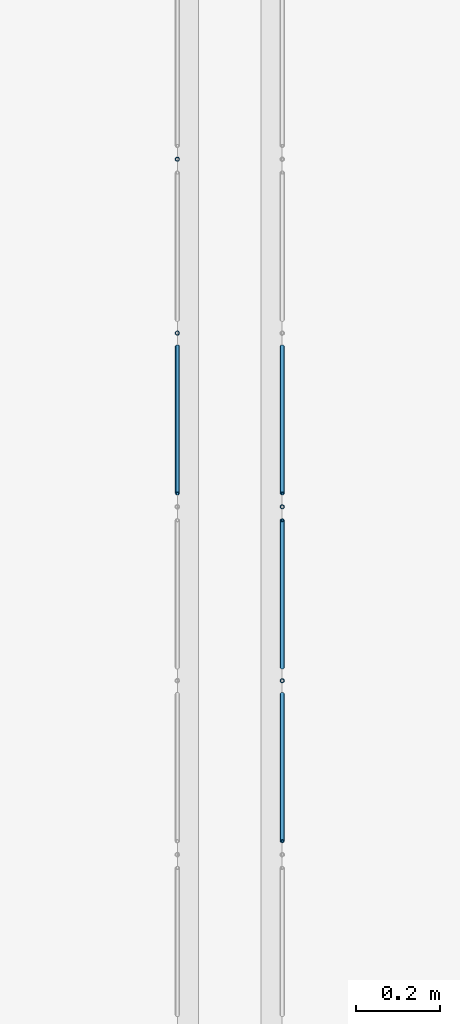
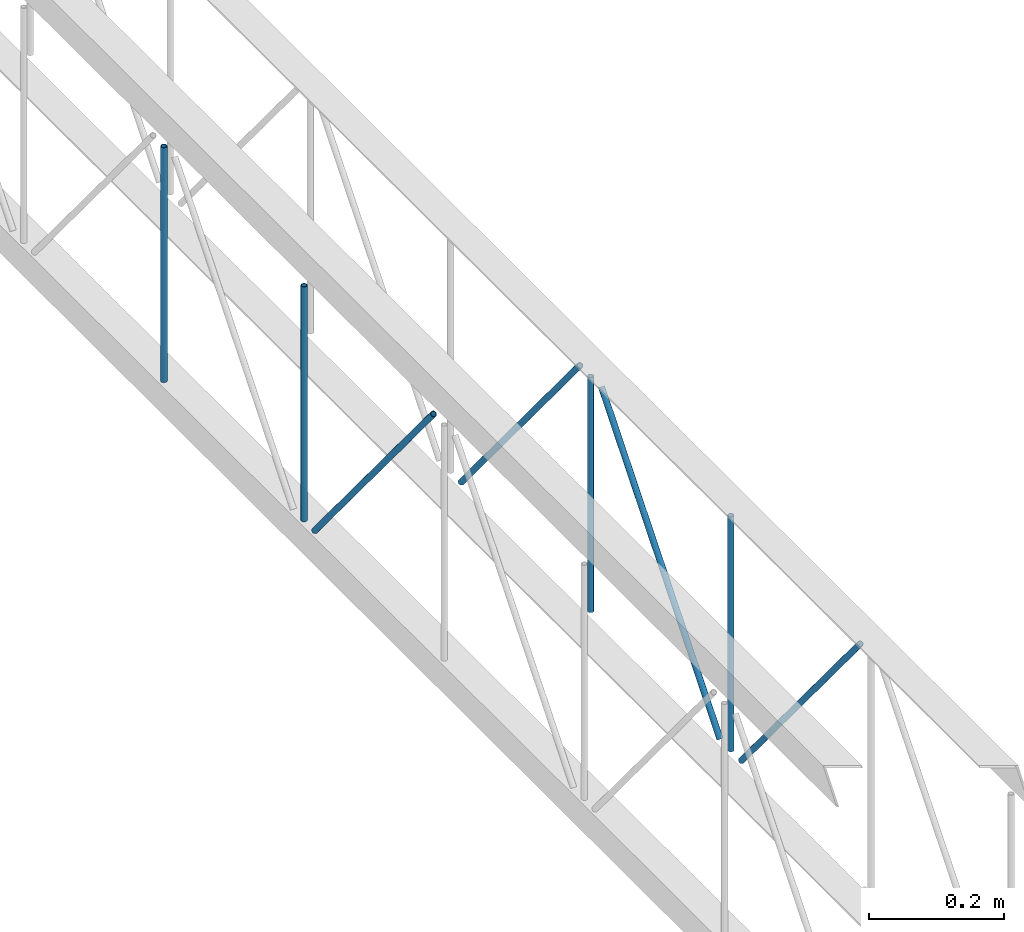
# One storey, part 23 of 153: 8 members, 2 elements without a shape of their own.
"""IFC4 building model written with IfcOpenShell, lengths in metres."""

from ifc_helpers import new_model, entity, si_unit, converted_unit, derived_unit, direction, frame, origin, place, context, subcontext, project, spatial, arc, indexed_curve, outline, extrude, source, transform, mapped, material, type_object, type_shapes, element, aggregate, save


model = new_model("IFC4")

# Units and contexts
model_context = context("Model", 3, precision=1e-05, world=origin(), true_north=direction((6.123031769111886e-17, 1.0)))
body_context = subcontext(model_context, "Body", "Model", "MODEL_VIEW")
ifc_project = project(units=[si_unit("LENGTHUNIT", "METRE"), si_unit("AREAUNIT", "SQUARE_METRE"), si_unit("VOLUMEUNIT", "CUBIC_METRE"), converted_unit("PLANEANGLEUNIT", "DEGREE", entity("IfcRatioMeasure", 0.017453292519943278), si_unit("PLANEANGLEUNIT", "RADIAN"), dimensions=[0, 0, 0, 0, 0, 0, 0]), si_unit("MASSUNIT", "GRAM", prefix="KILO"), derived_unit("MASSDENSITYUNIT", [(si_unit("MASSUNIT", "GRAM", prefix="KILO"), 1), (si_unit("LENGTHUNIT", "METRE"), -3)]), derived_unit("MOMENTOFINERTIAUNIT", [(si_unit("LENGTHUNIT", "METRE"), 4)]), si_unit("TIMEUNIT", "SECOND"), si_unit("FREQUENCYUNIT", "HERTZ"), si_unit("THERMODYNAMICTEMPERATUREUNIT", "DEGREE_CELSIUS"), derived_unit("THERMALTRANSMITTANCEUNIT", [(si_unit("MASSUNIT", "GRAM", prefix="KILO"), 1), (si_unit("THERMODYNAMICTEMPERATUREUNIT", "KELVIN"), -1), (si_unit("TIMEUNIT", "SECOND"), -3)]), derived_unit("VOLUMETRICFLOWRATEUNIT", [(si_unit("LENGTHUNIT", "METRE"), 3), (si_unit("TIMEUNIT", "SECOND"), -1)]), derived_unit("MASSFLOWRATEUNIT", [(si_unit("MASSUNIT", "GRAM", prefix="KILO"), 1), (si_unit("TIMEUNIT", "SECOND"), -1)]), derived_unit("ROTATIONALFREQUENCYUNIT", [(si_unit("TIMEUNIT", "SECOND"), -1)]), si_unit("ELECTRICCURRENTUNIT", "AMPERE"), si_unit("ELECTRICVOLTAGEUNIT", "VOLT"), si_unit("POWERUNIT", "WATT"), si_unit("FORCEUNIT", "NEWTON", prefix="KILO"), si_unit("ILLUMINANCEUNIT", "LUX"), si_unit("LUMINOUSFLUXUNIT", "LUMEN"), si_unit("LUMINOUSINTENSITYUNIT", "CANDELA"), derived_unit("USERDEFINED", [(si_unit("MASSUNIT", "GRAM", prefix="KILO"), -1), (si_unit("LENGTHUNIT", "METRE"), -2), (si_unit("TIMEUNIT", "SECOND"), 3), (si_unit("LUMINOUSFLUXUNIT", "LUMEN"), 1)]), derived_unit("SOUNDPOWERUNIT", [(si_unit("MASSUNIT", "GRAM", prefix="KILO"), 1), (si_unit("LENGTHUNIT", "METRE"), 2), (si_unit("TIMEUNIT", "SECOND"), -3)]), derived_unit("SOUNDPRESSUREUNIT", [(si_unit("MASSUNIT", "GRAM", prefix="KILO"), 1), (si_unit("LENGTHUNIT", "METRE"), -1), (si_unit("TIMEUNIT", "SECOND"), -2)]), derived_unit("LINEARVELOCITYUNIT", [(si_unit("LENGTHUNIT", "METRE"), 1), (si_unit("TIMEUNIT", "SECOND"), -1)]), si_unit("PRESSUREUNIT", "PASCAL"), derived_unit("USERDEFINED", [(si_unit("LENGTHUNIT", "METRE"), -2), (si_unit("MASSUNIT", "GRAM", prefix="KILO"), 1), (si_unit("TIMEUNIT", "SECOND"), -2)]), derived_unit("LINEARFORCEUNIT", [(si_unit("MASSUNIT", "GRAM", prefix="KILO"), 1), (si_unit("LENGTHUNIT", "METRE"), 1), (si_unit("TIMEUNIT", "SECOND"), -2), (si_unit("LENGTHUNIT", "METRE"), -1)]), derived_unit("PLANARFORCEUNIT", [(si_unit("MASSUNIT", "GRAM", prefix="KILO"), 1), (si_unit("LENGTHUNIT", "METRE"), 1), (si_unit("TIMEUNIT", "SECOND"), -2), (si_unit("LENGTHUNIT", "METRE"), -2)])], contexts=[model_context])

# Site, building, storey
site_placement = place(None, origin())
site = spatial("IfcSite", under=ifc_project, at=site_placement, Name="Superficie", CompositionType="ELEMENT")
building_placement = place(site_placement, origin())
building = spatial("IfcBuilding", under=site, at=building_placement, CompositionType="ELEMENT")
storey_placement = place(building_placement, frame((0.0, 0.0, 3.5999999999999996)))
storey = spatial("IfcBuildingStorey", under=building, at=storey_placement, Name="Nivel 1", CompositionType="ELEMENT", Elevation=3.5999999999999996)

# Assembly, members
assembly_1_placement = place(storey_placement, origin())
assembly_1 = element("IfcElementAssembly", 1, at=assembly_1_placement, inside=storey, Name="Viga de celosia 13:Viga de celosia 13", ObjectType="Viga de celosia 13:Viga de celosia 13", AssemblyPlace="NOTDEFINED", PredefinedType="TRUSS")
ifc_material = material(Name="Metal - Calibre delgado", Category="Metal")
member_type_1 = type_object("IfcMemberType", Name="HSS-Tubo estructural redondo:HSS 0.01", PredefinedType="BRACE", material=ifc_material)
shared_shape_1 = source(origin(), body_context, "Body", "SweptSolid", [
    extrude(outline(indexed_curve([(-0.005000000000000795, 7.502054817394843e-18), (-9.800269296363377e-18, -0.005000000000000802), (0.005000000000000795, -7.502054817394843e-18), (8.07772287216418e-18, 0.005000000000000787)], segments=[arc(1, 2, 3), arc(3, 4, 1)], self_intersect=False), holes=[indexed_curve([(0.003999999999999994, 7.222511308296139e-17), (6.910645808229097e-17, -0.004000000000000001), (-0.003999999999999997, -1.8650054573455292e-17), (-2.9156497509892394e-17, 0.003999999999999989)], segments=[arc(1, 2, 3), arc(3, 4, 1)], self_intersect=False)]), frame((-0.21200000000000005, 0.0, 0.0), z_axis=(1.0, 0.0, 0.0), x_axis=(0.0, 1.0, 0.0)), (0.0, 0.0, 1.0), 0.4240000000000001),
])
type_shapes(member_type_1, [shared_shape_1])
member_1_placement = place(assembly_1_placement, frame((-18.70320098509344, -7.062721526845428, 0.25), z_axis=(0.0, 1.0, 0.0), x_axis=(0.0, 0.0, 1.0)))
member_1 = element("IfcMember", 2, at=member_1_placement, type_object=member_type_1, material=ifc_material, Name="HSS-Tubo estructural redondo:HSS 0.01", ObjectType="HSS-Tubo estructural redondo:HSS 0.01", PredefinedType="BRACE", context=body_context, shape_type="MappedRepresentation", body=[
    mapped(shared_shape_1, transform((0.0, 0.0, 0.0), scale=1.0)),
])
member_2_placement = place(assembly_1_placement, frame((-18.70320098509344, -6.648375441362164, 0.25), z_axis=(0.0, 1.0, 0.0), x_axis=(0.0, 0.0, 1.0)))
member_2 = element("IfcMember", 3, at=member_2_placement, type_object=member_type_1, material=ifc_material, Name="HSS-Tubo estructural redondo:HSS 0.01", ObjectType="HSS-Tubo estructural redondo:HSS 0.01", PredefinedType="BRACE", context=body_context, shape_type="MappedRepresentation", body=[
    mapped(shared_shape_1, transform((0.0, 0.0, 0.0), scale=1.0)),
])
member_type_2 = type_object("IfcMemberType", Name="HSS-Tubo estructural redondo:HSS 0.01", PredefinedType="BRACE", material=ifc_material)
shared_shape_2 = source(origin(), body_context, "Body", "SweptSolid", [
    extrude(outline(indexed_curve([(-0.005000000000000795, 7.502054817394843e-18), (-9.800269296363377e-18, -0.005000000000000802), (0.005000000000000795, -7.502054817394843e-18), (8.07772287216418e-18, 0.005000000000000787)], segments=[arc(1, 2, 3), arc(3, 4, 1)], self_intersect=False), holes=[indexed_curve([(0.003999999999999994, 7.222511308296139e-17), (6.910645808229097e-17, -0.004000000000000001), (-0.003999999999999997, -1.8650054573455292e-17), (-2.9156497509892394e-17, 0.003999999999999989)], segments=[arc(1, 2, 3), arc(3, 4, 1)], self_intersect=False)]), frame((-0.275, 0.0, 0.0), z_axis=(1.0, 0.0, 0.0), x_axis=(0.0, 1.0, 0.0)), (0.0, 0.0, 1.0), 0.55),
])
type_shapes(member_type_2, [shared_shape_2])
member_3_placement = place(assembly_1_placement, frame((-18.703200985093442, -7.269894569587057, 0.25000000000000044), z_axis=(0.0, -0.7699758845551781, -0.6380729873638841), x_axis=(0.0, 0.6380729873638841, -0.7699758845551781)))
member_3 = element("IfcMember", 4, at=member_3_placement, type_object=member_type_2, material=ifc_material, Name="HSS-Tubo estructural redondo:HSS 0.01", ObjectType="HSS-Tubo estructural redondo:HSS 0.01", PredefinedType="BRACE", context=body_context, shape_type="MappedRepresentation", body=[
    mapped(shared_shape_2, transform((0.0, 0.0, 0.0), scale=1.0)),
])
aggregate(assembly_1, [member_1, member_2, member_3])

assembly_2_placement = place(storey_placement, origin())
assembly_2 = element("IfcElementAssembly", 5, at=assembly_2_placement, inside=storey, Name="Viga de celosia 13:Viga de celosia 13", ObjectType="Viga de celosia 13:Viga de celosia 13", AssemblyPlace="NOTDEFINED", PredefinedType="TRUSS")
member_type_3 = type_object("IfcMemberType", Name="HSS-Tubo estructural redondo:HSS 0.01", PredefinedType="BRACE", material=ifc_material)
shared_shape_3 = source(origin(), body_context, "Body", "SweptSolid", [
    extrude(outline(indexed_curve([(-0.005000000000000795, 2.0824731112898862e-17), (-2.3122945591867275e-17, -0.005000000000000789), (0.005000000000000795, -2.08247311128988e-17), (2.14003991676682e-17, 0.005000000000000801)], segments=[arc(1, 2, 3), arc(3, 4, 1)], self_intersect=False), holes=[indexed_curve([(0.003999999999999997, -1.3094283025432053e-17), (-1.531427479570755e-18, -0.003999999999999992), (-0.004, 4.0098531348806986e-17), (4.1481388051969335e-17, 0.0039999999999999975)], segments=[arc(1, 2, 3), arc(3, 4, 1)], self_intersect=False)]), frame((-0.21200000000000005, 0.0, 0.0), z_axis=(1.0, 0.0, 0.0), x_axis=(0.0, -1.0, 0.0)), (0.0, 0.0, 1.0), 0.4240000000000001),
])
type_shapes(member_type_3, [shared_shape_3])
member_4_placement = place(assembly_2_placement, frame((-18.453200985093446, -7.89141369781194, 0.25), z_axis=(0.0, 1.0, 0.0), x_axis=(0.0, 0.0, 1.0)))
member_4 = element("IfcMember", 6, at=member_4_placement, type_object=member_type_3, material=ifc_material, Name="HSS-Tubo estructural redondo:HSS 0.01", ObjectType="HSS-Tubo estructural redondo:HSS 0.01", PredefinedType="BRACE", context=body_context, shape_type="MappedRepresentation", body=[
    mapped(shared_shape_3, transform((0.0, 0.0, 0.0), scale=1.0)),
])
member_5_placement = place(assembly_2_placement, frame((-18.453200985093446, -7.47706761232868, 0.25), z_axis=(0.0, 1.0, 0.0), x_axis=(0.0, 0.0, 1.0)))
member_5 = element("IfcMember", 7, at=member_5_placement, type_object=member_type_3, material=ifc_material, Name="HSS-Tubo estructural redondo:HSS 0.01", ObjectType="HSS-Tubo estructural redondo:HSS 0.01", PredefinedType="BRACE", context=body_context, shape_type="MappedRepresentation", body=[
    mapped(shared_shape_3, transform((0.0, 0.0, 0.0), scale=1.0)),
])
member_type_4 = type_object("IfcMemberType", Name="HSS-Tubo estructural redondo:HSS 0.01", PredefinedType="BRACE", material=ifc_material)
shared_shape_4 = source(origin(), body_context, "Body", "SweptSolid", [
    extrude(outline(indexed_curve([(-0.005000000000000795, 2.0824731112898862e-17), (-2.3122945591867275e-17, -0.005000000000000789), (0.005000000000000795, -2.08247311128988e-17), (2.14003991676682e-17, 0.005000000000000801)], segments=[arc(1, 2, 3), arc(3, 4, 1)], self_intersect=False), holes=[indexed_curve([(0.003999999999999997, -1.3094283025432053e-17), (-1.531427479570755e-18, -0.003999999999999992), (-0.004, 4.0098531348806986e-17), (4.1481388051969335e-17, 0.0039999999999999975)], segments=[arc(1, 2, 3), arc(3, 4, 1)], self_intersect=False)]), frame((-0.275, 0.0, 0.0), z_axis=(1.0, 0.0, 0.0), x_axis=(0.0, -1.0, 0.0)), (0.0, 0.0, 1.0), 0.55),
])
type_shapes(member_type_4, [shared_shape_4])
member_6_placement = place(assembly_2_placement, frame((-18.453200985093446, -8.098586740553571, 0.25), z_axis=(0.0, -0.7699758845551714, -0.638072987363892), x_axis=(0.0, 0.638072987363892, -0.7699758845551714)))
member_6 = element("IfcMember", 8, at=member_6_placement, type_object=member_type_4, material=ifc_material, Name="HSS-Tubo estructural redondo:HSS 0.01", ObjectType="HSS-Tubo estructural redondo:HSS 0.01", PredefinedType="BRACE", context=body_context, shape_type="MappedRepresentation", body=[
    mapped(shared_shape_4, transform((0.0, 0.0, 0.0), scale=1.0)),
])
member_7_placement = place(assembly_2_placement, frame((-18.453200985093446, -7.68424065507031, 0.25000000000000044), z_axis=(0.0, 0.7699758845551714, -0.638072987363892), x_axis=(0.0, 0.638072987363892, 0.7699758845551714)))
member_7 = element("IfcMember", 9, at=member_7_placement, type_object=member_type_4, material=ifc_material, Name="HSS-Tubo estructural redondo:HSS 0.01", ObjectType="HSS-Tubo estructural redondo:HSS 0.01", PredefinedType="BRACE", context=body_context, shape_type="MappedRepresentation", body=[
    mapped(shared_shape_4, transform((0.0, 0.0, 0.0), scale=1.0)),
])
member_8_placement = place(assembly_2_placement, frame((-18.453200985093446, -7.269894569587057, 0.25000000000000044), z_axis=(0.0, -0.7699758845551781, -0.6380729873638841), x_axis=(0.0, 0.6380729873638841, -0.7699758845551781)))
member_8 = element("IfcMember", 10, at=member_8_placement, type_object=member_type_4, material=ifc_material, Name="HSS-Tubo estructural redondo:HSS 0.01", ObjectType="HSS-Tubo estructural redondo:HSS 0.01", PredefinedType="BRACE", context=body_context, shape_type="MappedRepresentation", body=[
    mapped(shared_shape_4, transform((0.0, 0.0, 0.0), scale=1.0)),
])
aggregate(assembly_2, [member_4, member_5, member_6, member_7, member_8])

save(model, "model.ifc")
